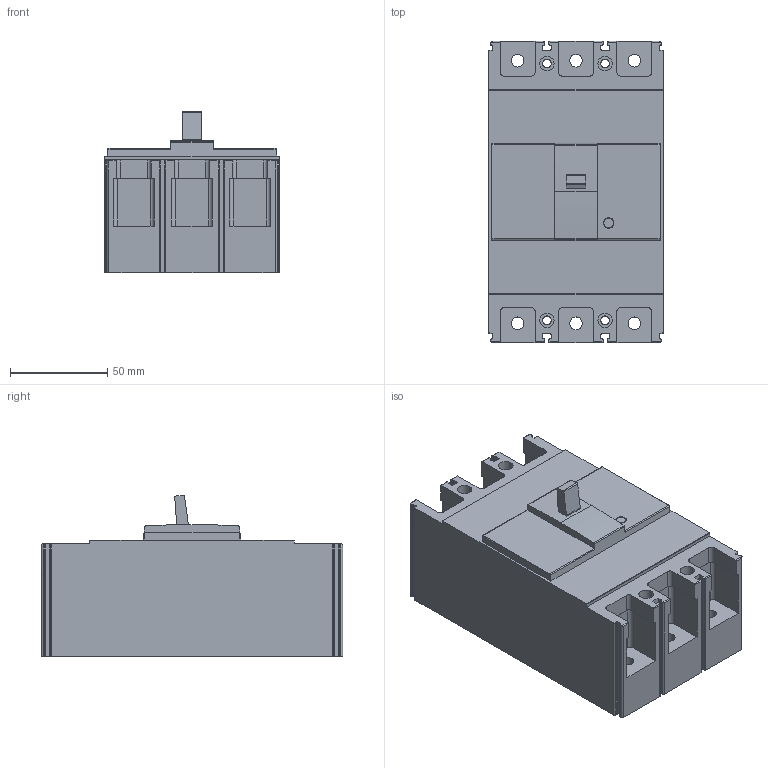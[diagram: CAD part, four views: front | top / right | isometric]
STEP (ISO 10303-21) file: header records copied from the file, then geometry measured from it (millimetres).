
FILE_DESCRIPTION (( 'STEP AP203' ), '1' );
FILE_NAME ('SMART 125AF 3P.STEP', '2018-01-04T00:31:23', ( '' ), ( '' ), 'SwSTEP 2.0', 'SolidWorks 2015', '' );
FILE_SCHEMA (( 'CONFIG_CONTROL_DESIGN' ));
Length unit declared in the file: millimetre
Products named in the file (1): SMART 125AF 3P
Bounding box: 89.6 x 155 x 83.06 mm (x, y, z)
Volume: 756399.9 mm3; surface area: 75645.8 mm2
Topology: 1 solids, 1 shells, 272 faces, 779 edges, 517 vertices
Faces by surface type: cylinder 139, plane 129, torus 4
Entity records: 9100 total; most frequent: CARTESIAN_POINT 1649, DIRECTION 1569, ORIENTED_EDGE 1558, EDGE_CURVE 779, AXIS2_PLACEMENT_3D 533, VERTEX_POINT 517, LINE 503, VECTOR 503
